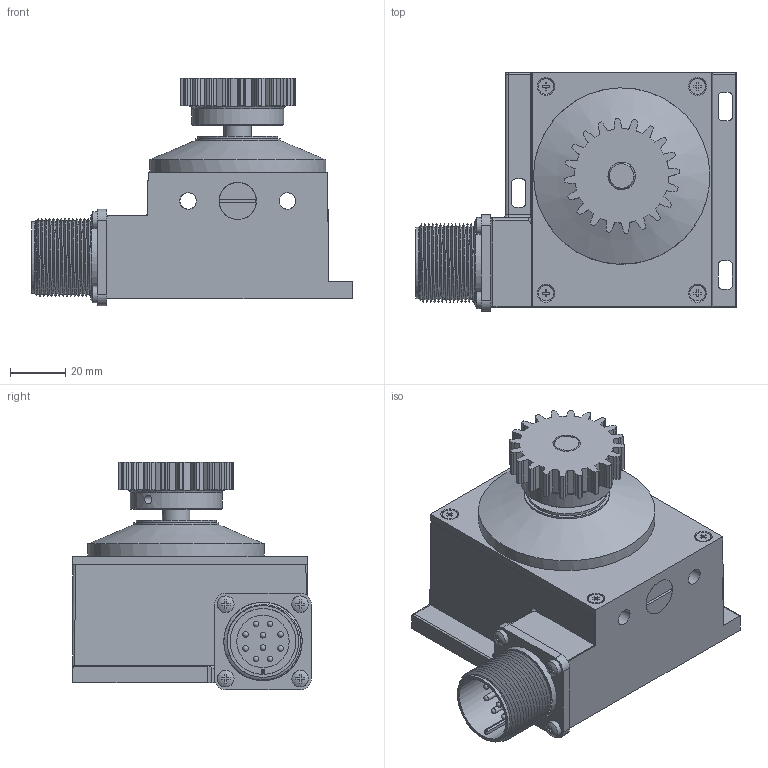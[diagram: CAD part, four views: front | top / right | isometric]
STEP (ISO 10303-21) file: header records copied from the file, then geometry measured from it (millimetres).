
FILE_DESCRIPTION( ( 'Unknown' ), '1' );
FILE_NAME( 'C:/Users/malfermoa/Desktop/step/EC_34.stp', 'Unknown', ( 'Unknown' ), ( 'Unknown' ), 'PSStep 15.0.49', 'Unknown', ' ' );
FILE_SCHEMA( ( 'AUTOMOTIVE_DESIGN { 1 0 10303 214 1 1 1 1 }' ) );
Length unit declared in the file: millimetre
Products named in the file (3): Assem1; 44890004; EC_342
Assembly tree (2 placements, depth 2):
  Assem1
    44890004
    EC_342
Bounding box: 116.2 x 86.5 x 82.5 mm (x, y, z)
Volume: 197777.3 mm3; surface area: 86915.9 mm2
Topology: 2 solids, 12 shells, 748 faces, 1998 edges, 1308 vertices
Faces by surface type: plane 391, cylinder 259, cone 63, sphere 21, bspline 11, torus 3
Full cylindrical faces by diameter (mm): 2 x20, 2.013 x2, 2.459 x16, 2.6 x10, 3 x4, 3.242 x4, 3.5 x8, 5.2 x1, 5.6 x4, 6 x9, 8 x2, 9 x4, 10 x14, 10.7 x2, 10.917 x4, 13.5 x2, 15 x1, 19 x2, 22 x1, 23.5 x1, 23.9 x1, 25.2 x1, 25.5 x1, 26 x15, 26.1 x1, 28.4 x1, 29 x2, 31 x2, 33.423 x1, 45.998 x1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
Entity records: 29848 total; most frequent: CARTESIAN_POINT 7442, DIRECTION 3412, ORIENTED_EDGE 3190, EDGE_CURVE 1595, AXIS2_PLACEMENT_3D 1254, VERTEX_POINT 1146, EDGE_LOOP 1004, LINE 904
